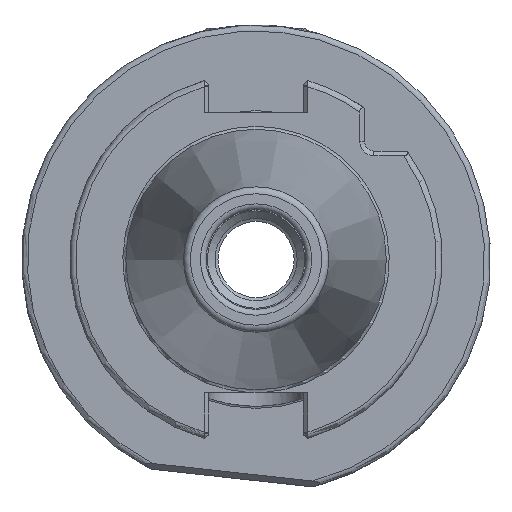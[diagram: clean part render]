
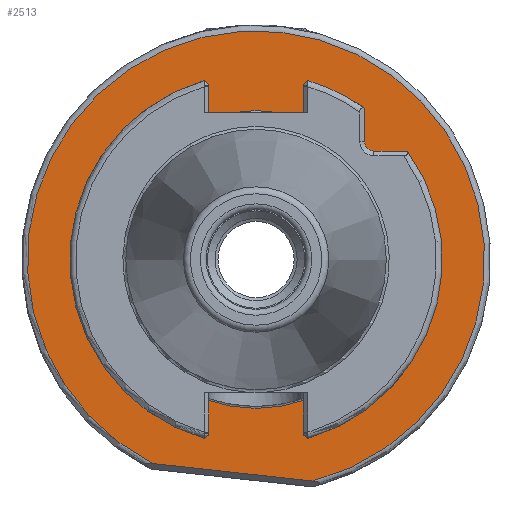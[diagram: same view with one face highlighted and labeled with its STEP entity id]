
A CAD part, left-side view. The second image highlights one B-rep face of the part: STEP entity #2513.
In plain terms, the highlighted planar face has unit normal (-1, 0, 0).
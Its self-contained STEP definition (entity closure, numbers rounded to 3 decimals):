
#128=FACE_BOUND('',#443,.T.);
#138=CIRCLE('',#2729,39.);
#140=CIRCLE('',#2732,25.4);
#289=FACE_OUTER_BOUND('',#442,.T.);
#442=EDGE_LOOP('',(#1666,#1667));
#443=EDGE_LOOP('',(#1668));
#603=LINE('',#3701,#766);
#766=VECTOR('',#2994,10.);
#1008=VERTEX_POINT('',#3681);
#1009=VERTEX_POINT('',#3700);
#1011=VERTEX_POINT('',#3726);
#1262=EDGE_CURVE('',#1008,#1009,#603,.T.);
#1265=EDGE_CURVE('',#1009,#1008,#138,.T.);
#1267=EDGE_CURVE('',#1011,#1011,#140,.T.);
#1666=ORIENTED_EDGE('',*,*,#1262,.F.);
#1667=ORIENTED_EDGE('',*,*,#1265,.F.);
#1668=ORIENTED_EDGE('',*,*,#1267,.F.);
#2453=PLANE('',#2731);
#2513=ADVANCED_FACE('',(#289,#128),#2453,.T.);
#2729=AXIS2_PLACEMENT_3D('',#3723,#2998,#2999);
#2731=AXIS2_PLACEMENT_3D('',#3725,#3002,#3003);
#2732=AXIS2_PLACEMENT_3D('',#3727,#3004,#3005);
#2994=DIRECTION('',(0.,0.994,0.109));
#2998=DIRECTION('center_axis',(1.,0.,0.));
#2999=DIRECTION('ref_axis',(0.,-1.,0.));
#3002=DIRECTION('center_axis',(-1.,0.,0.));
#3003=DIRECTION('ref_axis',(0.,0.,1.));
#3004=DIRECTION('center_axis',(-1.,0.,0.));
#3005=DIRECTION('ref_axis',(0.,-1.,0.));
#3681=CARTESIAN_POINT('',(35.,-9.683,-37.779));
#3700=CARTESIAN_POINT('',(35.,17.631,-34.787));
#3701=CARTESIAN_POINT('',(35.,23.737,-34.119));
#3723=CARTESIAN_POINT('Origin',(35.,0.,0.));
#3725=CARTESIAN_POINT('Origin',(35.,40.,0.));
#3726=CARTESIAN_POINT('',(35.,0.,25.4));
#3727=CARTESIAN_POINT('Origin',(35.,0.,0.));
